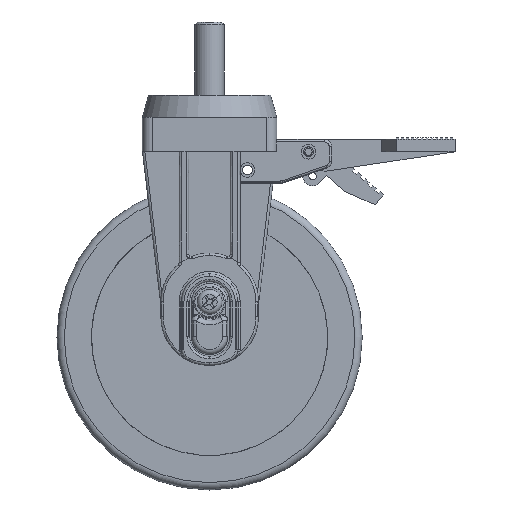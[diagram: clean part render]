
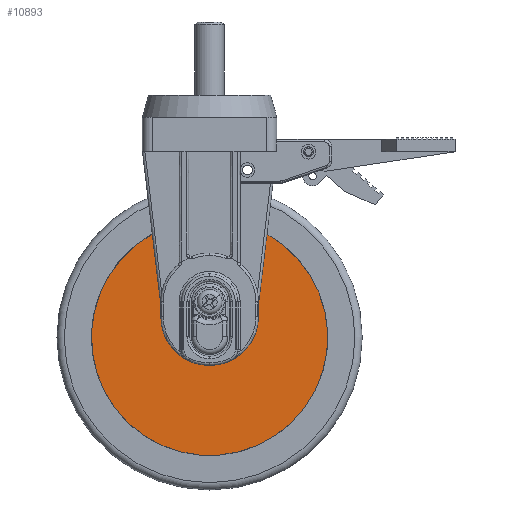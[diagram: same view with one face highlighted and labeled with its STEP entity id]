
A CAD part, front view. The second image highlights one B-rep face of the part: STEP entity #10893.
In plain terms, the highlighted planar face has unit normal (0, -1, 0).
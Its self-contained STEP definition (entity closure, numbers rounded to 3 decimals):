
#2998=CARTESIAN_POINT('',(-116.047,101.174,-203.522));
#2999=VERTEX_POINT('',#2998);
#3000=CARTESIAN_POINT('',(-122.553,101.174,-208.004));
#3001=VERTEX_POINT('',#3000);
#3002=CARTESIAN_POINT('',(-119.3,101.174,-205.763));
#3003=DIRECTION('',(0.,1.,0.));
#3004=DIRECTION('',(0.823,0.,0.567));
#3005=AXIS2_PLACEMENT_3D('',#3002,#3003,#3004);
#3006=CIRCLE('',#3005,3.95);
#3007=EDGE_CURVE('',#2999,#3001,#3006,.T.);
#3448=CARTESIAN_POINT('',(-119.3,101.174,-205.763));
#3449=DIRECTION('',(0.,1.,0.));
#3450=DIRECTION('',(0.823,0.,0.567));
#3451=AXIS2_PLACEMENT_3D('',#3448,#3449,#3450);
#3452=CIRCLE('',#3451,3.95);
#3453=EDGE_CURVE('',#3001,#2999,#3452,.T.);
#10849=CARTESIAN_POINT('',(-119.3,101.174,-220.263));
#10850=DIRECTION('',(0.0,-1.0,0.0));
#10851=DIRECTION('',(0.0,0.0,-1.0));
#10852=AXIS2_PLACEMENT_3D('',#10849,#10850,#10851);
#10853=PLANE('',#10852);
#10854=CARTESIAN_POINT('',(-96.272,101.174,-181.603));
#10855=VERTEX_POINT('',#10854);
#10856=CARTESIAN_POINT('',(-95.837,101.174,-177.965));
#10857=VERTEX_POINT('',#10856);
#10858=CARTESIAN_POINT('',(-96.272,101.174,-181.603));
#10859=DIRECTION('',(0.119,0.0,0.993));
#10860=VECTOR('',#10859,3.664);
#10861=LINE('',#10858,#10860);
#10862=EDGE_CURVE('',#10855,#10857,#10861,.T.);
#10863=ORIENTED_EDGE('',*,*,#10862,.F.);
#10864=CARTESIAN_POINT('',(-142.328,101.174,-181.603));
#10865=VERTEX_POINT('',#10864);
#10866=CARTESIAN_POINT('',(-142.328,101.174,-181.603));
#10867=DIRECTION('',(1.0,0.0,0.0));
#10868=VECTOR('',#10867,46.056);
#10869=LINE('',#10866,#10868);
#10870=EDGE_CURVE('',#10865,#10855,#10869,.T.);
#10871=ORIENTED_EDGE('',*,*,#10870,.F.);
#10872=CARTESIAN_POINT('',(-142.763,101.174,-177.965));
#10873=VERTEX_POINT('',#10872);
#10874=CARTESIAN_POINT('',(-142.763,101.174,-177.965));
#10875=DIRECTION('',(0.119,0.0,-0.993));
#10876=VECTOR('',#10875,3.664);
#10877=LINE('',#10874,#10876);
#10878=EDGE_CURVE('',#10873,#10865,#10877,.T.);
#10879=ORIENTED_EDGE('',*,*,#10878,.F.);
#10880=CARTESIAN_POINT('',(-119.3,101.174,-220.263));
#10881=DIRECTION('',(0.0,-1.0,0.0));
#10882=DIRECTION('',(1.0,0.0,0.0));
#10883=AXIS2_PLACEMENT_3D('',#10880,#10881,#10882);
#10884=CIRCLE('',#10883,48.37);
#10885=EDGE_CURVE('',#10873,#10857,#10884,.T.);
#10886=ORIENTED_EDGE('',*,*,#10885,.T.);
#10887=EDGE_LOOP('',(#10863,#10871,#10879,#10886));
#10888=FACE_OUTER_BOUND('',#10887,.T.);
#10889=ORIENTED_EDGE('',*,*,#3007,.T.);
#10890=ORIENTED_EDGE('',*,*,#3453,.T.);
#10891=EDGE_LOOP('',(#10889,#10890));
#10892=FACE_BOUND('',#10891,.T.);
#10893=ADVANCED_FACE('',(#10888,#10892),#10853,.T.);
